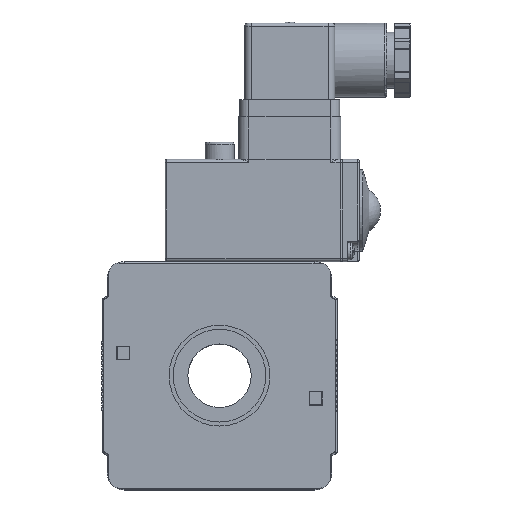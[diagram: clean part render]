
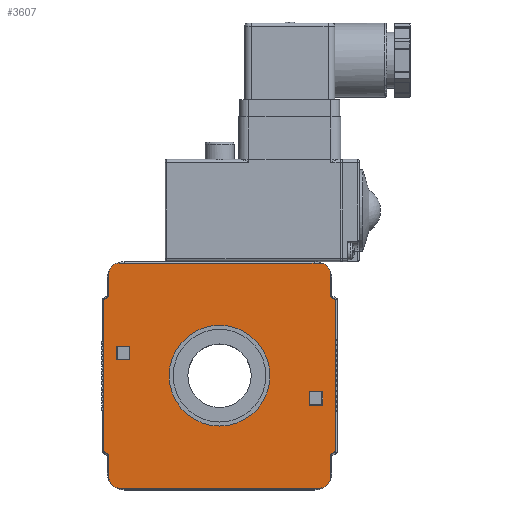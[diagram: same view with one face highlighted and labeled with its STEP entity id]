
A CAD part, top view. The second image highlights one B-rep face of the part: STEP entity #3607.
In plain terms, the highlighted planar face has unit normal (0, 0, 1).
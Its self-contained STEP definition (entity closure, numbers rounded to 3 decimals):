
#2815=CARTESIAN_POINT('',(14.8,0.,19.4));
#2816=VERTEX_POINT('',#2815);
#2817=CARTESIAN_POINT('',(0.0,0.0,19.4));
#2818=DIRECTION('',(0.0,0.0,-1.0));
#2819=DIRECTION('',(-1.0,0.0,0.0));
#2820=AXIS2_PLACEMENT_3D('',#2817,#2818,#2819);
#2821=CIRCLE('',#2820,14.8);
#2822=EDGE_CURVE('',#2816,#2816,#2821,.T.);
#2840=CARTESIAN_POINT('',(-26.3,4.7,19.4));
#2841=VERTEX_POINT('',#2840);
#2848=CARTESIAN_POINT('',(-26.3,8.7,19.4));
#2849=VERTEX_POINT('',#2848);
#2850=CARTESIAN_POINT('',(-26.3,8.7,19.4));
#2851=DIRECTION('',(0.0,-1.0,0.0));
#2852=VECTOR('',#2851,4.0);
#2853=LINE('',#2850,#2852);
#2854=EDGE_CURVE('',#2849,#2841,#2853,.T.);
#2873=CARTESIAN_POINT('',(-30.3,8.7,19.4));
#2874=VERTEX_POINT('',#2873);
#2875=CARTESIAN_POINT('',(-30.3,8.7,19.4));
#2876=DIRECTION('',(1.0,0.0,0.0));
#2877=VECTOR('',#2876,4.);
#2878=LINE('',#2875,#2877);
#2879=EDGE_CURVE('',#2874,#2849,#2878,.T.);
#2897=CARTESIAN_POINT('',(-30.3,4.7,19.4));
#2898=VERTEX_POINT('',#2897);
#2899=CARTESIAN_POINT('',(-30.3,4.7,19.4));
#2900=DIRECTION('',(0.0,1.0,0.0));
#2901=VECTOR('',#2900,4.);
#2902=LINE('',#2899,#2901);
#2903=EDGE_CURVE('',#2898,#2874,#2902,.T.);
#2921=CARTESIAN_POINT('',(-26.3,4.7,19.4));
#2922=DIRECTION('',(-1.0,0.0,0.0));
#2923=VECTOR('',#2922,4.);
#2924=LINE('',#2921,#2923);
#2925=EDGE_CURVE('',#2841,#2898,#2924,.T.);
#2943=CARTESIAN_POINT('',(30.3,-8.7,19.4));
#2944=VERTEX_POINT('',#2943);
#2951=CARTESIAN_POINT('',(30.3,-4.7,19.4));
#2952=VERTEX_POINT('',#2951);
#2953=CARTESIAN_POINT('',(30.3,-4.7,19.4));
#2954=DIRECTION('',(0.0,-1.0,0.0));
#2955=VECTOR('',#2954,4.);
#2956=LINE('',#2953,#2955);
#2957=EDGE_CURVE('',#2952,#2944,#2956,.T.);
#2975=CARTESIAN_POINT('',(26.3,-4.7,19.4));
#2976=VERTEX_POINT('',#2975);
#2977=CARTESIAN_POINT('',(26.3,-4.7,19.4));
#2978=DIRECTION('',(1.0,0.0,0.0));
#2979=VECTOR('',#2978,4.0);
#2980=LINE('',#2977,#2979);
#2981=EDGE_CURVE('',#2976,#2952,#2980,.T.);
#3012=CARTESIAN_POINT('',(26.3,-8.7,19.4));
#3013=VERTEX_POINT('',#3012);
#3014=CARTESIAN_POINT('',(26.3,-8.7,19.4));
#3015=DIRECTION('',(0.0,1.0,0.0));
#3016=VECTOR('',#3015,4.0);
#3017=LINE('',#3014,#3016);
#3018=EDGE_CURVE('',#3013,#2976,#3017,.T.);
#3037=CARTESIAN_POINT('',(30.3,-8.7,19.4));
#3038=DIRECTION('',(-1.0,0.0,0.0));
#3039=VECTOR('',#3038,4.0);
#3040=LINE('',#3037,#3039);
#3041=EDGE_CURVE('',#2944,#3013,#3040,.T.);
#3053=CARTESIAN_POINT('',(32.5,-30.,19.4));
#3054=VERTEX_POINT('',#3053);
#3061=CARTESIAN_POINT('',(29.5,-33.,19.4));
#3062=VERTEX_POINT('',#3061);
#3063=CARTESIAN_POINT('',(29.5,-30.,19.4));
#3064=DIRECTION('',(0.0,0.0,1.0));
#3065=DIRECTION('',(-1.0,0.0,0.0));
#3066=AXIS2_PLACEMENT_3D('',#3063,#3064,#3065);
#3067=CIRCLE('',#3066,3.);
#3068=EDGE_CURVE('',#3062,#3054,#3067,.T.);
#3101=CARTESIAN_POINT('',(32.5,-23.1,19.4));
#3102=VERTEX_POINT('',#3101);
#3109=CARTESIAN_POINT('',(32.5,-30.,19.4));
#3110=DIRECTION('',(0.0,1.0,0.0));
#3111=VECTOR('',#3110,6.9);
#3112=LINE('',#3109,#3111);
#3113=EDGE_CURVE('',#3054,#3102,#3112,.T.);
#3132=CARTESIAN_POINT('',(34.,-22.234,19.4));
#3133=VERTEX_POINT('',#3132);
#3140=CARTESIAN_POINT('',(32.5,-23.1,19.4));
#3141=DIRECTION('',(0.866,0.5,0.0));
#3142=VECTOR('',#3141,1.732);
#3143=LINE('',#3140,#3142);
#3144=EDGE_CURVE('',#3102,#3133,#3143,.T.);
#3172=CARTESIAN_POINT('',(34.0,22.234,19.4));
#3173=VERTEX_POINT('',#3172);
#3180=CARTESIAN_POINT('',(34.,-22.234,19.4));
#3181=DIRECTION('',(0.0,1.0,0.0));
#3182=VECTOR('',#3181,44.468);
#3183=LINE('',#3180,#3182);
#3184=EDGE_CURVE('',#3133,#3173,#3183,.T.);
#3203=CARTESIAN_POINT('',(32.5,23.1,19.4));
#3204=VERTEX_POINT('',#3203);
#3211=CARTESIAN_POINT('',(34.0,22.234,19.4));
#3212=DIRECTION('',(-0.866,0.5,0.0));
#3213=VECTOR('',#3212,1.732);
#3214=LINE('',#3211,#3213);
#3215=EDGE_CURVE('',#3173,#3204,#3214,.T.);
#3241=CARTESIAN_POINT('',(32.5,30.,19.4));
#3242=VERTEX_POINT('',#3241);
#3249=CARTESIAN_POINT('',(32.5,23.1,19.4));
#3250=DIRECTION('',(0.0,1.0,0.0));
#3251=VECTOR('',#3250,6.9);
#3252=LINE('',#3249,#3251);
#3253=EDGE_CURVE('',#3204,#3242,#3252,.T.);
#3265=CARTESIAN_POINT('',(29.5,33.,19.4));
#3266=VERTEX_POINT('',#3265);
#3273=CARTESIAN_POINT('',(29.5,30.,19.4));
#3274=DIRECTION('',(0.0,0.0,1.0));
#3275=DIRECTION('',(0.0,-1.0,0.0));
#3276=AXIS2_PLACEMENT_3D('',#3273,#3274,#3275);
#3277=CIRCLE('',#3276,3.);
#3278=EDGE_CURVE('',#3242,#3266,#3277,.T.);
#3297=CARTESIAN_POINT('',(-29.5,33.,19.4));
#3298=VERTEX_POINT('',#3297);
#3305=CARTESIAN_POINT('',(29.5,33.,19.4));
#3306=DIRECTION('',(-1.0,0.0,0.0));
#3307=VECTOR('',#3306,59.0);
#3308=LINE('',#3305,#3307);
#3309=EDGE_CURVE('',#3266,#3298,#3308,.T.);
#3321=CARTESIAN_POINT('',(-32.5,30.,19.4));
#3322=VERTEX_POINT('',#3321);
#3329=CARTESIAN_POINT('',(-29.5,30.,19.4));
#3330=DIRECTION('',(0.0,0.0,1.0));
#3331=DIRECTION('',(1.0,0.0,0.0));
#3332=AXIS2_PLACEMENT_3D('',#3329,#3330,#3331);
#3333=CIRCLE('',#3332,3.);
#3334=EDGE_CURVE('',#3298,#3322,#3333,.T.);
#3362=CARTESIAN_POINT('',(-32.5,23.1,19.4));
#3363=VERTEX_POINT('',#3362);
#3370=CARTESIAN_POINT('',(-32.5,30.,19.4));
#3371=DIRECTION('',(0.0,-1.0,0.0));
#3372=VECTOR('',#3371,6.9);
#3373=LINE('',#3370,#3372);
#3374=EDGE_CURVE('',#3322,#3363,#3373,.T.);
#3393=CARTESIAN_POINT('',(-34.,22.234,19.4));
#3394=VERTEX_POINT('',#3393);
#3401=CARTESIAN_POINT('',(-32.5,23.1,19.4));
#3402=DIRECTION('',(-0.866,-0.5,0.0));
#3403=VECTOR('',#3402,1.732);
#3404=LINE('',#3401,#3403);
#3405=EDGE_CURVE('',#3363,#3394,#3404,.T.);
#3433=CARTESIAN_POINT('',(-34.0,-22.234,19.4));
#3434=VERTEX_POINT('',#3433);
#3441=CARTESIAN_POINT('',(-34.,22.234,19.4));
#3442=DIRECTION('',(0.0,-1.0,0.0));
#3443=VECTOR('',#3442,44.468);
#3444=LINE('',#3441,#3443);
#3445=EDGE_CURVE('',#3394,#3434,#3444,.T.);
#3464=CARTESIAN_POINT('',(-32.5,-23.1,19.4));
#3465=VERTEX_POINT('',#3464);
#3472=CARTESIAN_POINT('',(-34.0,-22.234,19.4));
#3473=DIRECTION('',(0.866,-0.5,0.0));
#3474=VECTOR('',#3473,1.732);
#3475=LINE('',#3472,#3474);
#3476=EDGE_CURVE('',#3434,#3465,#3475,.T.);
#3502=CARTESIAN_POINT('',(-32.5,-30.,19.4));
#3503=VERTEX_POINT('',#3502);
#3510=CARTESIAN_POINT('',(-32.5,-23.1,19.4));
#3511=DIRECTION('',(0.0,-1.0,0.0));
#3512=VECTOR('',#3511,6.9);
#3513=LINE('',#3510,#3512);
#3514=EDGE_CURVE('',#3465,#3503,#3513,.T.);
#3526=CARTESIAN_POINT('',(-29.5,-33.,19.4));
#3527=VERTEX_POINT('',#3526);
#3534=CARTESIAN_POINT('',(-29.5,-30.,19.4));
#3535=DIRECTION('',(0.0,0.0,1.0));
#3536=DIRECTION('',(0.0,1.0,0.0));
#3537=AXIS2_PLACEMENT_3D('',#3534,#3535,#3536);
#3538=CIRCLE('',#3537,3.);
#3539=EDGE_CURVE('',#3503,#3527,#3538,.T.);
#3559=CARTESIAN_POINT('',(-29.5,-33.,19.4));
#3560=DIRECTION('',(1.0,0.0,0.0));
#3561=VECTOR('',#3560,59.0);
#3562=LINE('',#3559,#3561);
#3563=EDGE_CURVE('',#3527,#3062,#3562,.T.);
#3569=CARTESIAN_POINT('',(0.,0.,19.4));
#3570=DIRECTION('',(0.0,0.0,-1.0));
#3571=DIRECTION('',(1.0,0.0,0.0));
#3572=AXIS2_PLACEMENT_3D('',#3569,#3570,#3571);
#3573=PLANE('',#3572);
#3574=ORIENTED_EDGE('',*,*,#3563,.T.);
#3575=ORIENTED_EDGE('',*,*,#3068,.T.);
#3576=ORIENTED_EDGE('',*,*,#3113,.T.);
#3577=ORIENTED_EDGE('',*,*,#3144,.T.);
#3578=ORIENTED_EDGE('',*,*,#3184,.T.);
#3579=ORIENTED_EDGE('',*,*,#3215,.T.);
#3580=ORIENTED_EDGE('',*,*,#3253,.T.);
#3581=ORIENTED_EDGE('',*,*,#3278,.T.);
#3582=ORIENTED_EDGE('',*,*,#3309,.T.);
#3583=ORIENTED_EDGE('',*,*,#3334,.T.);
#3584=ORIENTED_EDGE('',*,*,#3374,.T.);
#3585=ORIENTED_EDGE('',*,*,#3405,.T.);
#3586=ORIENTED_EDGE('',*,*,#3445,.T.);
#3587=ORIENTED_EDGE('',*,*,#3476,.T.);
#3588=ORIENTED_EDGE('',*,*,#3514,.T.);
#3589=ORIENTED_EDGE('',*,*,#3539,.T.);
#3590=EDGE_LOOP('',(#3574,#3575,#3576,#3577,#3578,#3579,#3580,#3581,#3582,#3583,#3584,#3585,#3586,#3587,#3588,#3589));
#3591=FACE_OUTER_BOUND('',#3590,.T.);
#3592=ORIENTED_EDGE('',*,*,#2822,.T.);
#3593=EDGE_LOOP('',(#3592));
#3594=FACE_BOUND('',#3593,.T.);
#3595=ORIENTED_EDGE('',*,*,#2854,.T.);
#3596=ORIENTED_EDGE('',*,*,#2925,.T.);
#3597=ORIENTED_EDGE('',*,*,#2903,.T.);
#3598=ORIENTED_EDGE('',*,*,#2879,.T.);
#3599=EDGE_LOOP('',(#3595,#3596,#3597,#3598));
#3600=FACE_BOUND('',#3599,.T.);
#3601=ORIENTED_EDGE('',*,*,#2957,.T.);
#3602=ORIENTED_EDGE('',*,*,#3041,.T.);
#3603=ORIENTED_EDGE('',*,*,#3018,.T.);
#3604=ORIENTED_EDGE('',*,*,#2981,.T.);
#3605=EDGE_LOOP('',(#3601,#3602,#3603,#3604));
#3606=FACE_BOUND('',#3605,.T.);
#3607=ADVANCED_FACE('',(#3591,#3594,#3600,#3606),#3573,.F.);
